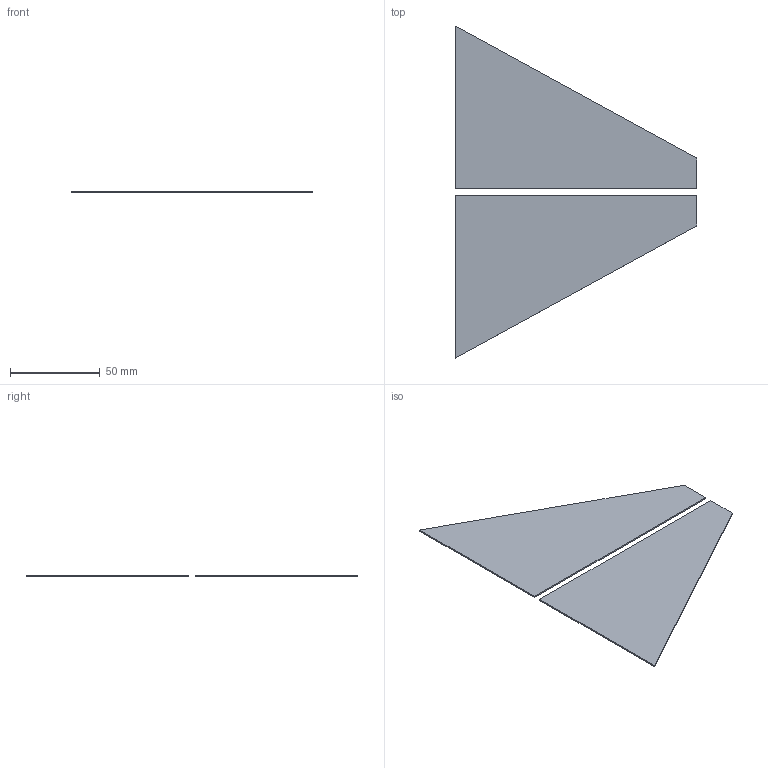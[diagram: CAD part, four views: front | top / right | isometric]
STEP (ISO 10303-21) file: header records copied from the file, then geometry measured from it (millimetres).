
FILE_DESCRIPTION(('STEP AP203'), '1');
FILE_NAME('ìàñêà äåêè çàä 1', '', ('UNSPECIFIED'), ('UNSPECIFIED'), 'ASCON STEP Converter 1.3', 'ASCON Math Kernel', '');
FILE_SCHEMA(('CONFIG_CONTROL_DESIGN'));
Length unit declared in the file: millimetre
Bounding box: 135.02 x 185.4 x 0.8 mm (x, y, z)
Volume: 11633.6 mm3; surface area: 29718.4 mm2
Topology: 2 solids, 2 shells, 12 faces, 24 edges, 16 vertices
Faces by surface type: plane 12
Entity records: 454 total; most frequent: CARTESIAN_POINT 53, DIRECTION 50, ORIENTED_EDGE 48, EDGE_CURVE 24, LINE 24, VECTOR 24, VERTEX_POINT 16, COLOUR_RGB 14
